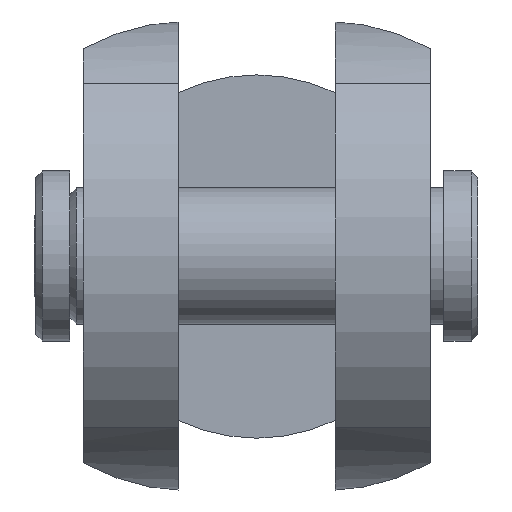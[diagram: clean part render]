
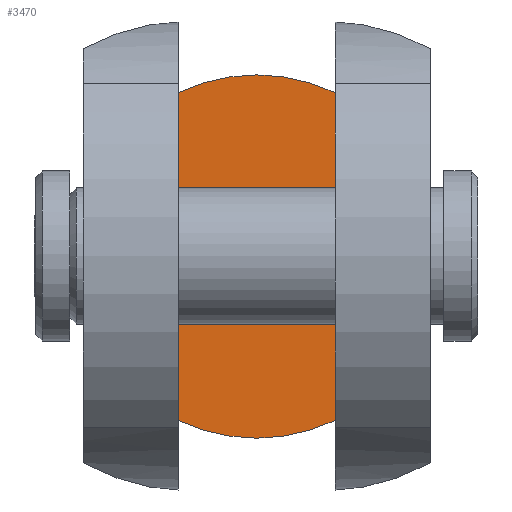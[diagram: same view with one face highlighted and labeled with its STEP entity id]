
A CAD part, top view. The second image highlights one B-rep face of the part: STEP entity #3470.
In plain terms, the highlighted planar face has unit normal (0, 0, 1).
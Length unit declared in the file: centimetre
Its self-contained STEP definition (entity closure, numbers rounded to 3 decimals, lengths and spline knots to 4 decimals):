
#158=PLANE('',#3659);
#509=LINE('',#5647,#863);
#510=LINE('',#5649,#864);
#863=VECTOR('',#4353,4.8172);
#864=VECTOR('',#4356,4.8172);
#1151=FACE_OUTER_BOUND('',#1358,.T.);
#1358=EDGE_LOOP('',(#3031,#3032,#3033,#3034));
#1418=CIRCLE('',#3513,2.6691);
#1419=CIRCLE('',#3514,2.6691);
#1465=VERTEX_POINT('',#4520);
#1466=VERTEX_POINT('',#4524);
#1471=VERTEX_POINT('',#4560);
#1472=VERTEX_POINT('',#4564);
#1775=EDGE_CURVE('',#1465,#1466,#1418,.T.);
#1781=EDGE_CURVE('',#1471,#1472,#1419,.T.);
#2176=EDGE_CURVE('',#1465,#1472,#509,.T.);
#2177=EDGE_CURVE('',#1466,#1471,#510,.T.);
#3031=ORIENTED_EDGE('',*,*,#1775,.F.);
#3032=ORIENTED_EDGE('',*,*,#2176,.T.);
#3033=ORIENTED_EDGE('',*,*,#1781,.F.);
#3034=ORIENTED_EDGE('',*,*,#2177,.F.);
#3470=ADVANCED_FACE('',(#1151),#158,.F.);
#3513=AXIS2_PLACEMENT_3D('',#4525,#3729,#3730);
#3514=AXIS2_PLACEMENT_3D('',#4565,#3731,#3732);
#3659=AXIS2_PLACEMENT_3D('',#5650,#4357,#4358);
#3729=DIRECTION('center_axis',(0.,0.,
-1.));
#3730=DIRECTION('ref_axis',(0.,-1.,0.));
#3731=DIRECTION('center_axis',(0.,0.,
-1.));
#3732=DIRECTION('ref_axis',(0.,-1.,0.));
#4353=DIRECTION('',(0.,1.,0.));
#4356=DIRECTION('',(0.,1.,0.));
#4357=DIRECTION('center_axis',(0.,0.,
-1.));
#4358=DIRECTION('ref_axis',(-1.,0.,0.));
#4520=CARTESIAN_POINT('',(1.15,-2.4086,-4.5));
#4524=CARTESIAN_POINT('',(-1.15,-2.4086,-4.5));
#4525=CARTESIAN_POINT('Origin',(0.,0.,
-4.5));
#4560=CARTESIAN_POINT('',(-1.15,2.4086,-4.5));
#4564=CARTESIAN_POINT('',(1.15,2.4086,-4.5));
#4565=CARTESIAN_POINT('Origin',(0.,0.,
-4.5));
#5647=CARTESIAN_POINT('',(1.15,0.,-4.5));
#5649=CARTESIAN_POINT('',(-1.15,0.,-4.5));
#5650=CARTESIAN_POINT('Origin',(1.15,0.,-4.5));
